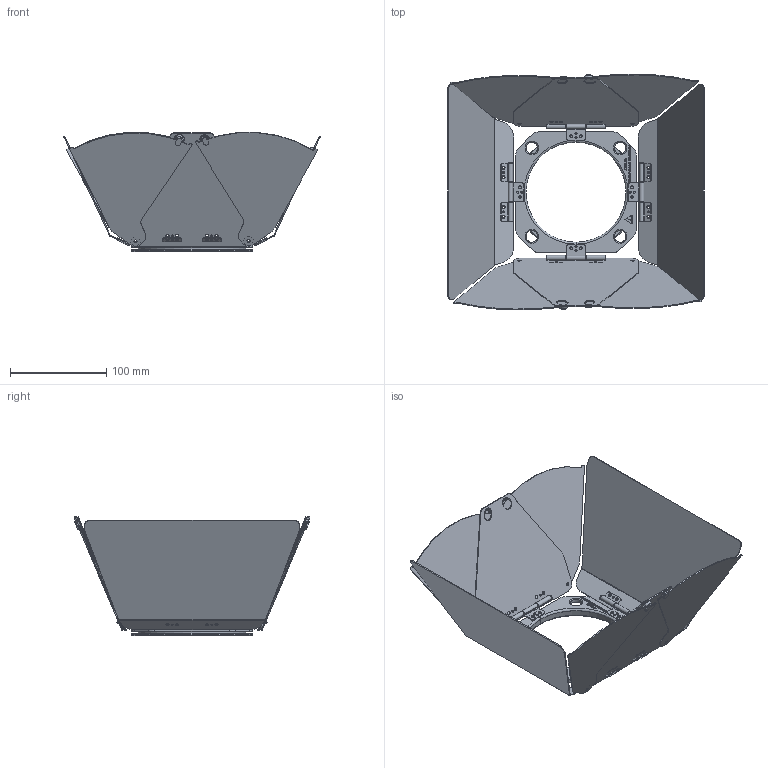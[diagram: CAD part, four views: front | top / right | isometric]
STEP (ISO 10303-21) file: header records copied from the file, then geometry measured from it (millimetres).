
FILE_DESCRIPTION(('FreeCAD Model'),'2;1');
FILE_NAME('Open CASCADE Shape Model','2023-10-11T09:45:24',( 'Lukas Balthasar Pank'),('Astera LED Technology GmbH'), 'Open CASCADE STEP processor 7.6','FreeCAD','Unknown');
FILE_SCHEMA(('AUTOMOTIVE_DESIGN { 1 0 10303 214 1 1 1 1 }'));
Length unit declared in the file: millimetre
Products named in the file (44): AF80_PlutoFresnel_BarnDoor_3D-File; 26671-Barn Door base; 27194-Damping shaft-assem; male shaft; shaft; male shaft -B; 27197-Teflon gasket-0.5; 27196-Teflon gasket-2; 26672-Barn Door-A; 26673-Barn Door-B; 26674-Barn Door-C
Assembly tree (43 placements, depth 3):
  AF80_PlutoFresnel_BarnDoor_3D-File
    26671-Barn Door base
    27194-Damping shaft-assem
      male shaft
      shaft
      male shaft -B
      male shaft -B
    27194-Damping shaft-assem
      male shaft
      shaft
      male shaft -B
      male shaft -B
    27197-Teflon gasket-0.5
    27196-Teflon gasket-2
    26672-Barn Door-A
      26672-Barn Door-A
      26672-Barn Door-A
      26672-Barn Door-A
    26673-Barn Door-B
      26673-Barn Door-B
      26673-Barn Door-B
      26673-Barn Door-B
    26674-Barn Door-C
    26674-Barn Door-C
    26674-Barn Door-C
    27194-Damping shaft-assem
      male shaft
      shaft
      male shaft -B
      male shaft -B
    26674-Barn Door-C
    26673-Barn Door-B
      26673-Barn Door-B
      26673-Barn Door-B
      26673-Barn Door-B
    27194-Damping shaft-assem
      male shaft
      shaft
      male shaft -B
      male shaft -B
    26672-Barn Door-A
      26672-Barn Door-A
      26672-Barn Door-A
      26672-Barn Door-A
Bounding box: 267.2 x 245.6 x 124.09 mm (x, y, z)
Volume: 154265.3 mm3; surface area: 261302.3 mm2
Topology: 35 solids, 35 shells, 1448 faces, 3699 edges, 2410 vertices
Faces by surface type: cylinder 516, plane 504, bspline 288, torus 82, cone 58
Entity records: 55025 total; most frequent: CARTESIAN_POINT 18385, ORIENTED_EDGE 7398, DIRECTION 6725, EDGE_CURVE 3699, AXIS2_PLACEMENT_3D 2454, VERTEX_POINT 2410, LINE 1817, VECTOR 1817
